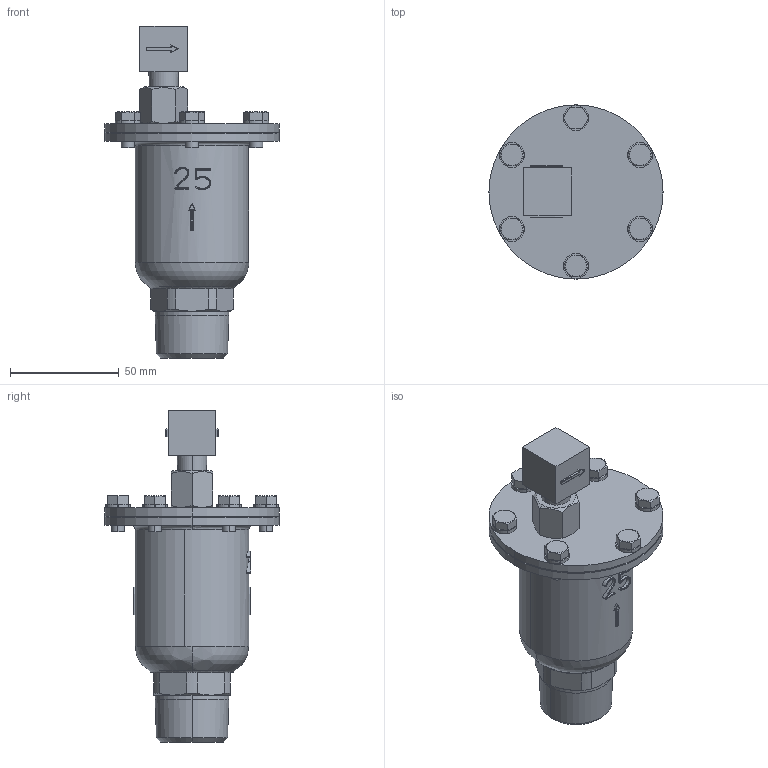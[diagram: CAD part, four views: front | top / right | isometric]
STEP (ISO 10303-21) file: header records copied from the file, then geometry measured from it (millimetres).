
FILE_DESCRIPTION( (''), '2;1');
FILE_NAME ('PC1056.968.TA-16CVA(25A)_16840.stp','2024-08-29T09:34:57',(''),(''),'spGate 19.8.4 (****-****-****-****)','','');
FILE_SCHEMA (('AUTOMOTIVE_DESIGN'));
Length unit declared in the file: millimetre
Bounding box: 80 x 80 x 152.5 mm (x, y, z)
Volume: 219355.7 mm3; surface area: 33636.3 mm2
Topology: 1 solids, 1 shells, 319 faces, 797 edges, 505 vertices
Faces by surface type: plane 155, cylinder 106, bspline 58
Entity records: 17562 total; most frequent: CARTESIAN_POINT 4041, ORIENTED_EDGE 1594, DIRECTION 1332, COLOUR_RGB 1117, PRESENTATION_STYLE_ASSIGNMENT 1117, STYLED_ITEM 1117, EDGE_CURVE 797, DRAUGHTING_PRE_DEFINED_CURVE_FONT 797
